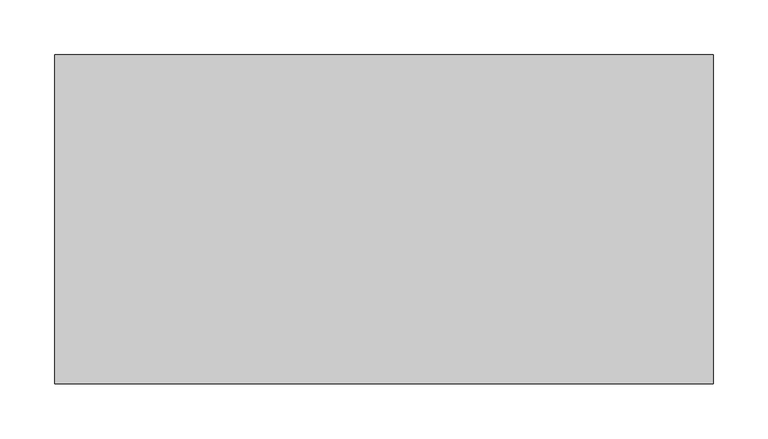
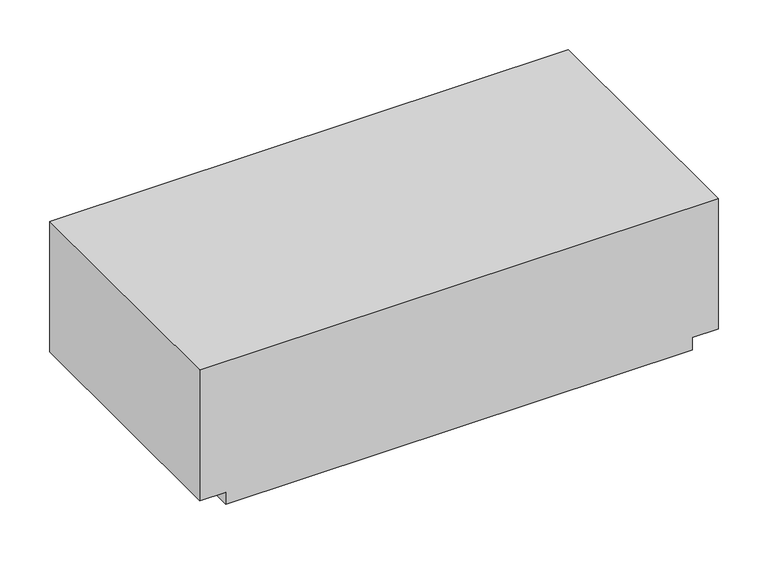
"""IFC4 building model written with IfcOpenShell, lengths in millimetres: proxy geometry, Módulo Laje de Concreto Celular com Friso - Celucon : MLCC friso 17,5x30x60cm (A x B x C)."""

import ifcopenshell
import ifcopenshell.guid

model = None  # the IFC model being written
_history = None  # IfcOwnerHistory: only IFC2X3 demands one
_inside = {}  # id of a spatial element -> (the spatial element, [elements in it])
_under = {}  # id of a project, library or spatial element -> (it, [spatial elements below it])
_declared = {}  # id of a project -> (the project, [libraries it declares])
_typed = {}  # id of a type object -> (the type object, [elements of that type])
_made_of = {}  # id of a material, layer set ... -> (it, [elements and type objects made of it])


def new_model(schema):
    """Start an empty IFC model of exactly this schema.

    Asked for "IFC4X3", IfcOpenShell would pick the latest addendum, in which some entities
    have other attributes; the version numbers below select the first issue.
    IFC2X3 requires an IfcOwnerHistory on every rooted entity: one is made here for all.
    """
    global model, _history
    if schema == "IFC4X3":
        model = ifcopenshell.file(schema_version=(4, 3, 0, 0))
    else:
        model = ifcopenshell.file(schema=schema)
    _inside.clear()
    _under.clear()
    _declared.clear()
    _typed.clear()
    _made_of.clear()
    _history = None
    if model.schema == "IFC2X3":
        org = make("IfcOrganization", Name="unknown")
        user = make(
            "IfcPersonAndOrganization",
            ThePerson=make("IfcPerson", FamilyName="unknown"),
            TheOrganization=org,
        )
        app = make(
            "IfcApplication",
            ApplicationDeveloper=org,
            Version="unknown",
            ApplicationFullName="unknown",
            ApplicationIdentifier="unknown",
        )
        _history = make(
            "IfcOwnerHistory",
            OwningUser=user,
            OwningApplication=app,
            ChangeAction="ADDED",
            CreationDate=0,
        )
    return model


def make(cls, **values):
    """One entity of the class cls with the attributes given. An attribute that is None is left unset."""
    return model.create_entity(
        cls, **{name: value for name, value in values.items() if value is not None}
    )


def rooted(cls, **values):
    """An entity with a GlobalId (a new one), such as an element, a storey or a relation."""
    return make(cls, GlobalId=ifcopenshell.guid.new(), OwnerHistory=_history, **values)


def si_unit(unit_type, name, prefix=None):
    """IfcSIUnit, for example si_unit("LENGTHUNIT", "METRE", prefix="MILLI")."""
    return make("IfcSIUnit", UnitType=unit_type, Prefix=prefix, Name=name)


def assignment(units):
    """IfcUnitAssignment: the units of a project."""
    return None if units is None else make("IfcUnitAssignment", Units=units)


def point(xyz):
    """IfcCartesianPoint."""
    return None if xyz is None else make("IfcCartesianPoint", Coordinates=xyz)


def direction(xyz):
    """IfcDirection."""
    return None if xyz is None else make("IfcDirection", DirectionRatios=xyz)


def frame(location, z_axis=None, x_axis=None):
    """IfcAxis2Placement3D, a coordinate frame: its origin and axes. An axis left out is left unset."""
    return make(
        "IfcAxis2Placement3D",
        Location=point(location),
        Axis=direction(z_axis),
        RefDirection=direction(x_axis),
    )


def origin():
    """The frame at (0, 0, 0) with its axes left unset."""
    return frame((0.0, 0.0, 0.0))


def place(relative_to, where):
    """IfcLocalPlacement: puts the frame where relative to a parent placement (None: the world)."""
    return make(
        "IfcLocalPlacement", PlacementRelTo=relative_to, RelativePlacement=where
    )


def context(
    kind, dimensions, precision=None, world=None, true_north=None, identifier=None
):
    """IfcGeometricRepresentationContext, for example the 3D "Model" context."""
    return make(
        "IfcGeometricRepresentationContext",
        ContextIdentifier=identifier,
        ContextType=kind,
        CoordinateSpaceDimension=dimensions,
        Precision=precision,
        WorldCoordinateSystem=world,
        TrueNorth=true_north,
    )


def project(units=None, contexts=None):
    """IfcProject with its units and contexts."""
    return rooted(
        "IfcProject",
        Name="project",
        RepresentationContexts=contexts,
        UnitsInContext=assignment(units),
    )


def spatial(cls, under=None, at=None, **own):
    """A site, building, storey or space (cls), placed at a placement, below another one or the project."""
    s = rooted(cls, ObjectPlacement=at, **own)
    if under is not None:
        _under.setdefault(under.id(), (under, []))[1].append(s)
    return s


def polyline(points):
    """IfcPolyline through the points."""
    return make("IfcPolyline", Points=[point(p) for p in points])


def outline(outer, holes=None, kind="AREA"):
    """IfcArbitraryClosedProfileDef: a profile drawn as a closed curve; with holes, ...WithVoids."""
    if holes is None:
        return make("IfcArbitraryClosedProfileDef", ProfileType=kind, OuterCurve=outer)
    return make(
        "IfcArbitraryProfileDefWithVoids",
        ProfileType=kind,
        OuterCurve=outer,
        InnerCurves=holes,
    )


def extrude(swept, where, along, depth):
    """IfcExtrudedAreaSolid: the profile swept, set in the frame where, extruded along a direction by depth."""
    return make(
        "IfcExtrudedAreaSolid",
        SweptArea=swept,
        Position=where,
        ExtrudedDirection=direction(along),
        Depth=depth,
    )


def shape(context_of_items, identifier, shape_type, items):
    """IfcShapeRepresentation: the items that make up one representation, for example the "Body"."""
    return make(
        "IfcShapeRepresentation",
        ContextOfItems=context_of_items,
        RepresentationIdentifier=identifier,
        RepresentationType=shape_type,
        Items=items,
    )


def source(mapping_origin, context_of_items, identifier, shape_type, items):
    """IfcRepresentationMap: a shape defined once, which mapped items show again and again."""
    return make(
        "IfcRepresentationMap",
        MappingOrigin=mapping_origin,
        MappedRepresentation=shape(context_of_items, identifier, shape_type, items),
    )


def transform(
    local_origin,
    x_axis=None,
    y_axis=None,
    z_axis=None,
    scale=None,
    scale2=None,
    scale3=None,
    uniform=True,
):
    """IfcCartesianTransformationOperator3D, or its non-uniform kind. x_axis, y_axis, z_axis: its Axis1, 2, 3."""
    if uniform:
        return make(
            "IfcCartesianTransformationOperator3D",
            Axis1=direction(x_axis),
            Axis2=direction(y_axis),
            LocalOrigin=point(local_origin),
            Scale=scale,
            Axis3=direction(z_axis),
        )
    return make(
        "IfcCartesianTransformationOperator3DnonUniform",
        Axis1=direction(x_axis),
        Axis2=direction(y_axis),
        LocalOrigin=point(local_origin),
        Scale=scale,
        Axis3=direction(z_axis),
        Scale2=scale2,
        Scale3=scale3,
    )


def mapped(mapping_source, mapping_target):
    """IfcMappedItem: shows the shape of a source again, moved by a transform."""
    return make(
        "IfcMappedItem", MappingSource=mapping_source, MappingTarget=mapping_target
    )


def made_of(thing, what):
    """Note that an element or type object is made of a material, layer set ...; save() writes the relation."""
    if what is not None:
        _made_of.setdefault(what.id(), (what, []))[1].append(thing)
    return thing


def element(
    cls,
    number,
    at=None,
    inside=None,
    cuts=None,
    type_object=None,
    material=None,
    context=None,
    identifier="Body",
    shape_type=None,
    held_by="IfcProductDefinitionShape",
    body=None,
    shapes=None,
    **own,
):
    """One element of the class cls, such as IfcWall. Its Tag is "e" and its number.

    at: its placement. inside: the storey or other place that contains it. cuts: it is an
    opening in that element (IfcRelVoidsElement). A single representation is given by context,
    identifier, shape_type and body (its items); several are given by shapes. held_by: the class
    of the entity that holds the representations. save() writes the other relations.
    """
    e = rooted(cls, Tag="e%d" % number, ObjectPlacement=at, **own)
    if body is not None:
        shapes = [shape(context, identifier, shape_type, body)]
    if shapes is not None:
        e.Representation = make(held_by, Representations=shapes)
    if inside is not None:
        _inside.setdefault(inside.id(), (inside, []))[1].append(e)
    if cuts is not None:
        rooted(
            "IfcRelVoidsElement", RelatingBuildingElement=cuts, RelatedOpeningElement=e
        )
    if type_object is not None:
        _typed.setdefault(type_object.id(), (type_object, []))[1].append(e)
    return made_of(e, material)


def aggregate(whole, parts):
    """IfcRelAggregates: a whole, such as a stair, and the parts it consists of."""
    return rooted("IfcRelAggregates", RelatingObject=whole, RelatedObjects=parts)


def save(model, path):
    """Write the relations noted so far, then the file.

    IfcRelAggregates (storeys below a building ...), IfcRelContainedInSpatialStructure (elements
    in a storey), IfcRelDefinesByType, IfcRelAssociatesMaterial and IfcRelDeclares: one each for
    every whole, place, type object, material and project.
    """
    for whole, parts in _under.values():
        aggregate(whole, parts)
    for where, things in _inside.values():
        rooted(
            "IfcRelContainedInSpatialStructure",
            RelatedElements=things,
            RelatingStructure=where,
        )
    for kind, things in _typed.values():
        rooted("IfcRelDefinesByType", RelatedObjects=things, RelatingType=kind)
    for what, things in _made_of.values():
        rooted("IfcRelAssociatesMaterial", RelatedObjects=things, RelatingMaterial=what)
    for by, libraries in _declared.values():
        rooted("IfcRelDeclares", RelatingContext=by, RelatedDefinitions=libraries)
    model.write(path)


def generic_models_78aa975b(model_context):
    return source(origin(), model_context, "Body", "SweptSolid", [
        extrude(outline(polyline([(175.0, 300.0), (175.0, -300.0), (15.0, -300.0), (15.0, -270.0), (0.0, -270.0), (0.0, 270.0), (15.0, 270.0), (15.0, 300.0), (175.0, 300.0)])), frame((0.0, -150.0, 0.0), z_axis=(0.0, 1.0, 0.0), x_axis=(0.0, 0.0, 1.0)), (0.0, 0.0, 1.0), 300.0),
    ])


if __name__ == "__main__":
    model = new_model("IFC4")
    model_context = context("Model", 3, world=origin())
    ifc_project = project(units=[si_unit("LENGTHUNIT", "METRE", prefix="MILLI")], contexts=[model_context])
    site = spatial("IfcSite", under=ifc_project)
    building = spatial("IfcBuilding", under=site)
    placement = place(None, origin())
    generic_models_shape = generic_models_78aa975b(model_context)
    element("IfcBuildingElementProxy", 1, Name="Módulo Laje de Concreto Celular com Friso - Celucon : MLCC friso 17,5x30x60cm (A x B x C)", ObjectType="Módulo Laje de Concreto Celular com Friso - Celucon : MLCC friso 17,5x30x60cm (A x B x C)", at=placement, inside=building, context=model_context, shape_type="MappedRepresentation", body=[
        mapped(generic_models_shape, transform((0.0, 0.0, 0.0), x_axis=(1.0, 0.0, 0.0), y_axis=(0.0, 1.0, 0.0), z_axis=(0.0, 0.0, 1.0))),
    ])
    save(model, "model.ifc")
